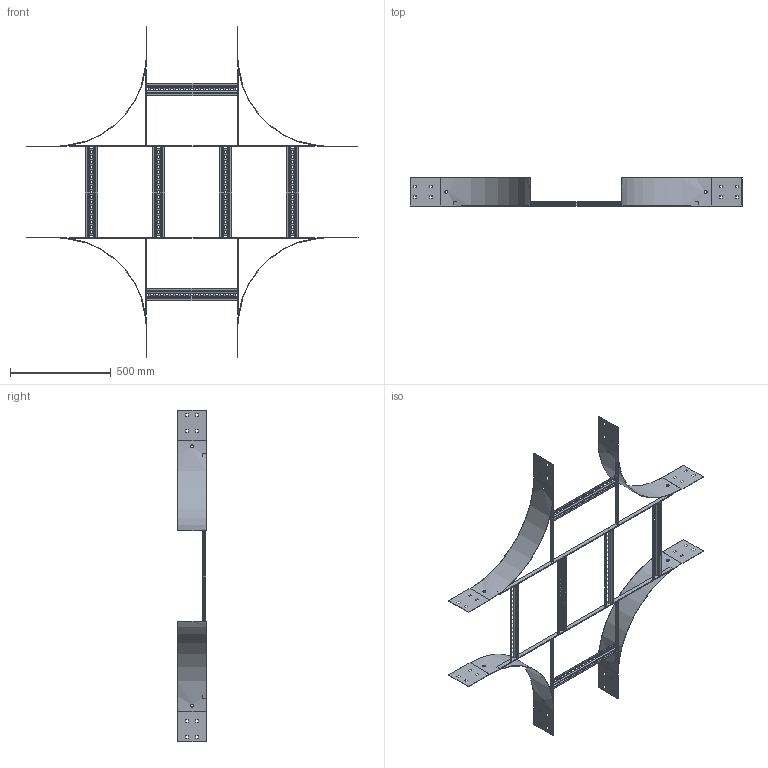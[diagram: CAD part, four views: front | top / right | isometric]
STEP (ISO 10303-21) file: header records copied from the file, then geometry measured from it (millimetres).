
FILE_DESCRIPTION (( 'STEP AP214' ), '1' );
FILE_NAME ('N20C C 4504.STEP', '2024-08-29T00:02:59', ( '' ), ( '' ), 'SwSTEP 2.0', 'SolidWorks 2023', '' );
FILE_SCHEMA (( 'AUTOMOTIVE_DESIGN' ));
Length unit declared in the file: millimetre
Products named in the file (5): N20C RADIUS PLATE_N1-450 IR; Ladder Rung_Ladder Rung -  450mm; Ladder Tee 20x5 Flat Bar_1216; Ladder Tee 20x5 Flat Bar_378; N20C C 4504
Assembly tree (16 placements, depth 2):
  N20C C 4504
    Ladder Rung_Ladder Rung -  450mm  x6
    Ladder Tee 20x5 Flat Bar_1216  x2
    N20C RADIUS PLATE_N1-450 IR  x4
    Ladder Tee 20x5 Flat Bar_378  x4
Bounding box: 1650 x 140 x 1650 mm (x, y, z)
Volume: 1796759.6 mm3; surface area: 1714729.3 mm2
Topology: 16 solids, 16 shells, 920 faces, 2440 edges, 1552 vertices
Faces by surface type: plane 848, cylinder 72
Entity records: 5970 total; most frequent: CARTESIAN_POINT 1295, ORIENTED_EDGE 928, DIRECTION 866, EDGE_CURVE 464, LINE 436, VECTOR 436, VERTEX_POINT 296, EDGE_LOOP 230
